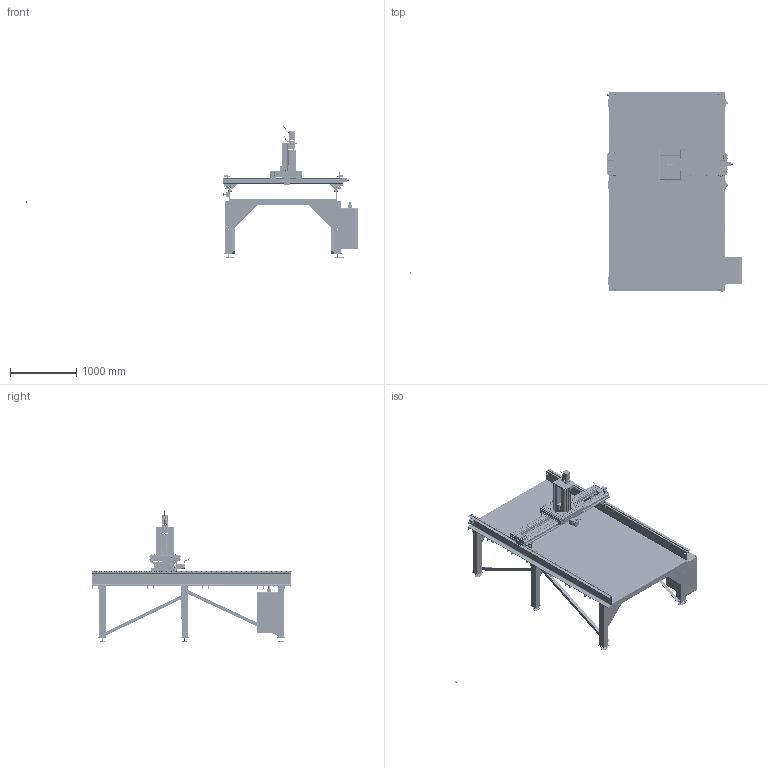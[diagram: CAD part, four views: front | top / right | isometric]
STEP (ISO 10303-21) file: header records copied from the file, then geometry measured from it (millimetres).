
FILE_DESCRIPTION(('CATIA V5 STEP Exchange'),'2;1');
FILE_NAME('W:\Licence\I2P\SB01.stp','2013-09-09T09:02:00+00:00',('none'),('none'),'CATIA Version 5 Release 20 SP 7 (IN-10)','CATIA V5 STEP AP214','none');
FILE_SCHEMA(('AUTOMOTIVE_DESIGN { 1 0 10303 214 1 1 1 1 }'));
Products named in the file (98): MACHINE; CHARIOT X; GUIDE Y; profil_90*90_1790; BOUCHON; Enemble guidae axe x; Vis chc m12 x 40; Rondell m12; Galet guidage axe x; Ecrou_M12; l1-16101; Axe roulement ; Rondelle d'appui D19; Vis M8 x 12; TOLE GUIDAGE; Equerre 90x90xx; Vis_M8x25_rondelle; Vis_M8x25; rondelle_9; Ecrou BOSCH M8 ; Lardon tige BOSCH-M8X25; SE_moteur_Y; Tole moteur; PK296AE-SG7.2; Vis_M6x20; rondelle_6-6; Vis_M8x16_rondelle; vis_M8x16; Pignon_moteur; Crémaillère_1790; Guidage Axe Y x 1750; Profile de serrage LF12C x 750; Tige de guidage LF12 x 750; vis_M8x30; SE_capteur; plaque  support fin de course; Fin_de_course_DL; vis_07175-04x25; ecrou_M4; Structure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
Assembly tree (343 placements, depth 6):
  MACHINE
    CHARIOT X
      GUIDE Y
        profil_90*90_1790  x2
        BOUCHON  x2
        Enemble guidae axe x  x2
          Vis chc m12 x 40
          Rondell m12
          Galet guidage axe x
          Ecrou_M12
          l1-16101
          Axe roulement 
          Vis M8 x 12
          TOLE GUIDAGE
          Equerre 90x90xx
          Vis_M8x25_rondelle
            Vis_M8x25
            rondelle_9
          Ecrou BOSCH M8 
        Lardon tige BOSCH-M8X25  x16
        Ecrou BOSCH M8   x16
        Vis_M8x25_rondelle  x21
          Vis_M8x25
          rondelle_9
        Vis_M8x25  x3
        rondelle_9  x3
        SE_moteur_Y  x2
          Tole moteur
          PK296AE-SG7.2
          Vis_M6x20
          rondelle_6-6
          Vis_M8x16_rondelle
            vis_M8x16
            rondelle_9
          Pignon_moteur
      Crémaillère_1790
      Guidage Axe Y x 1750  x2
        Profile de serrage LF12C x 750
        Tige de guidage LF12 x 750
      vis_M8x30  x8
      SE_capteur  x2
        plaque  support fin de course
        Fin_de_course_DL
        vis_07175-04x25
        ecrou_M4
        vis_M8x16
    Structure
      Table
        UPN 200x75x3000
        UPN 100x50x1750  x8
        UPN 200x75x3000.1
      equerre_pleine  x4
      equerre_troue  x2
      Pied  x6
        PLAT PIED
        ecrou_3300-408
        tige filetée M12
        bosch_3842538680_38kq0hejlxcjebzu4812w7e6w
        Tube carré 100x100x820
        Part8
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Bounding box: 5007.3 x 3010 x 1986.01 mm (x, y, z)
Volume: 289840571.4 mm3; surface area: 40965260.7 mm2
Topology: 616 solids, 616 shells, 26005 faces, 73789 edges, 49200 vertices
Faces by surface type: plane 19104, cylinder 4007, cone 1555, bspline 543, torus 496, sphere 270, extrusion 30
Entity records: 397728 total; most frequent: CARTESIAN_POINT 114156, ORIENTED_EDGE 65274, DIRECTION 46487, EDGE_CURVE 32637, VECTOR 27321, LINE 27315, VERTEX_POINT 22128, EDGE_LOOP 11665
